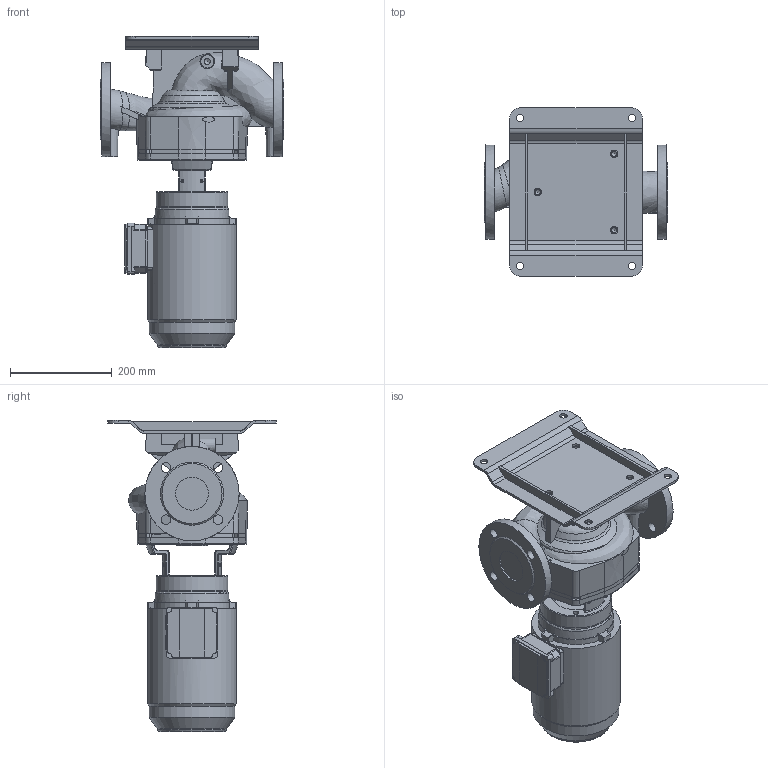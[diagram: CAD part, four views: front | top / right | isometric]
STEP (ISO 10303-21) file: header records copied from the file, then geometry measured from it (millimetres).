
FILE_DESCRIPTION (( 'STEP AP203' ), '1' );
FILE_NAME ('KI65-145_4_1,1kW.STEP', '2024-07-29T10:26:05', ( '' ), ( '' ), 'SwSTEP 2.0', 'SolidWorks 2023', '' );
FILE_SCHEMA (( 'CONFIG_CONTROL_DESIGN' ));
Length unit declared in the file: millimetre
Products named in the file (9): 230034; KI65-145_4_1,1kW; 230033; HMC3-90S-4P-B14_solid; 230405; 220542; 230031; 230497; 220543
Assembly tree (9 placements, depth 3):
  KI65-145_4_1,1kW
    220543
      220542
    230034
      230031
      230033  x2
    HMC3-90S-4P-B14_solid
    230405
    230497
Bounding box: 360 x 330.18 x 610.4 mm (x, y, z)
Volume: 14999664.5 mm3; surface area: 1025872.4 mm2
Topology: 7 solids, 8 shells, 836 faces, 2165 edges, 1336 vertices
Faces by surface type: plane 314, cylinder 272, bspline 95, torus 72, cone 61, sphere 22
Full cylindrical faces by diameter (mm): 5 x8, 6 x3, 6.8 x4, 7 x8, 10 x4, 10.2 x7, 11.8 x4, 14 x4, 14.5 x7, 19 x8, 65 x2, 95 x1, 136 x1, 140 x2, 147 x1, 151 x1, 168.6 x1, 174.6 x1, 189 x1
Entity records: 42491 total; most frequent: CARTESIAN_POINT 22645, ORIENTED_EDGE 3950, DIRECTION 3798, EDGE_CURVE 1975, AXIS2_PLACEMENT_3D 1460, VERTEX_POINT 1280, EDGE_LOOP 1023, FACE_OUTER_BOUND 900
